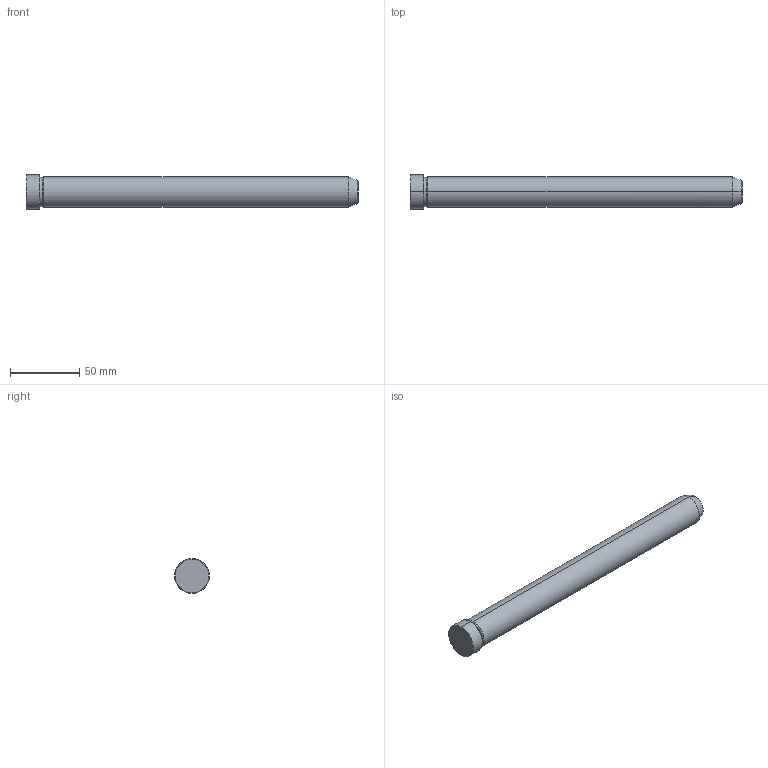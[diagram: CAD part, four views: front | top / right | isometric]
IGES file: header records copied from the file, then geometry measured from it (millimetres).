
Start section: START RECORD GO HERE.
Global section: file name: 549-22X240.igs; native system: DASSAULT SYSTEMES CATIA V5 R20 - www.3ds.com; preprocessor: CATIA Version 5 Release 20 ; author: Utente; organization: NB04-ASUS; date: 20211213.135459; units: millimetre
Bounding box: 240 x 25 x 25 mm (x, y, z)
Surface area: 17463 mm2 (no closed solid volume)
Topology: 0 solids, 0 shells, 19 faces, 112 edges, 112 vertices
Faces by surface type: revolution 16, plane 3
